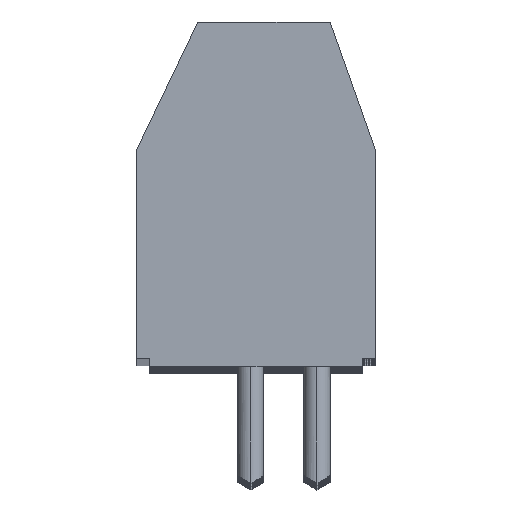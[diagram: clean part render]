
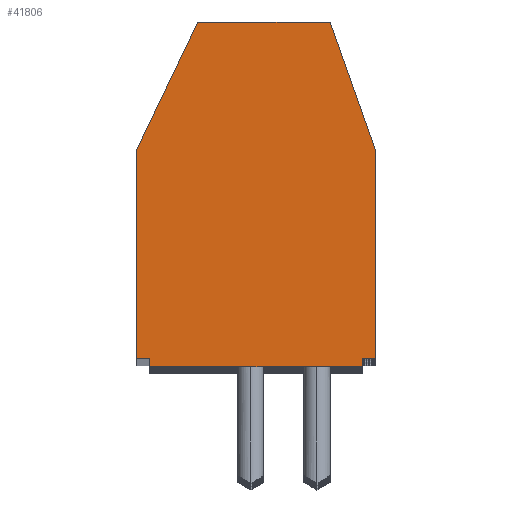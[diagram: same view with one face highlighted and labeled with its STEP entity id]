
A CAD part, top view. The second image highlights one B-rep face of the part: STEP entity #41806.
In plain terms, the highlighted planar face has unit normal (0, 0, 1).
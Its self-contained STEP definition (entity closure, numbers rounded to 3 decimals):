
#14928 = CARTESIAN_POINT ( 'NONE',  ( 4.2, 0., 0. ) ) ;
#14987 = CARTESIAN_POINT ( 'NONE',  ( 3.7, 0., 0. ) ) ;
#14988 = DIRECTION ( 'NONE',  ( 1., 0., 0. ) ) ;
#14989 = VECTOR ( 'NONE', #14988, 1000. ) ;
#14990 = CARTESIAN_POINT ( 'NONE',  ( 3.952, 0., 0. ) ) ;
#14991 = LINE ( 'NONE', #14990, #14989 ) ;
#20833 = CARTESIAN_POINT ( 'NONE',  ( 3.7, -0.3, 0. ) ) ;
#21282 = DIRECTION ( 'NONE',  ( 0., 1., 0. ) ) ;
#21283 = VECTOR ( 'NONE', #21282, 1000. ) ;
#21285 = CARTESIAN_POINT ( 'NONE',  ( 3.7, -0.15, 0. ) ) ;
#21287 = LINE ( 'NONE', #21285, #21283 ) ;
#21331 = CARTESIAN_POINT ( 'NONE',  ( -4.3, -0.3, 0. ) ) ;
#21409 = CARTESIAN_POINT ( 'NONE',  ( -4.3, 0., 0. ) ) ;
#21412 = DIRECTION ( 'NONE',  ( 0., -1., 0. ) ) ;
#21413 = VECTOR ( 'NONE', #21412, 1000. ) ;
#21414 = CARTESIAN_POINT ( 'NONE',  ( -4.3, -0.15, 0. ) ) ;
#21427 = LINE ( 'NONE', #21414, #21413 ) ;
#23100 = CARTESIAN_POINT ( 'NONE',  ( -4.8, 0., 0. ) ) ;
#23103 = DIRECTION ( 'NONE',  ( 1., 0., 0. ) ) ;
#23104 = VECTOR ( 'NONE', #23103, 1000. ) ;
#23107 = CARTESIAN_POINT ( 'NONE',  ( 4.2, 0., 0. ) ) ;
#23108 = LINE ( 'NONE', #23107, #23104 ) ;
#35525 = DIRECTION ( 'NONE',  ( 0., -1., 0. ) ) ;
#35526 = VECTOR ( 'NONE', #35525, 1000. ) ;
#35527 = CARTESIAN_POINT ( 'NONE',  ( 4.2, 7.9, 0. ) ) ;
#35528 = LINE ( 'NONE', #35527, #35526 ) ;
#35590 = CARTESIAN_POINT ( 'NONE',  ( 4.2, 7.9, 0. ) ) ;
#35950 = DIRECTION ( 'NONE',  ( -1., 0., 0. ) ) ;
#35951 = VECTOR ( 'NONE', #35950, 1000. ) ;
#35952 = CARTESIAN_POINT ( 'NONE',  ( -0.3, -0.3, 0. ) ) ;
#35953 = LINE ( 'NONE', #35952, #35951 ) ;
#35990 = CARTESIAN_POINT ( 'NONE',  ( -4.8, 7.9, 0. ) ) ;
#35991 = DIRECTION ( 'NONE',  ( 0., 1., 0. ) ) ;
#35992 = VECTOR ( 'NONE', #35991, 1000. ) ;
#35993 = CARTESIAN_POINT ( 'NONE',  ( -4.8, 6.2, 0. ) ) ;
#35994 = LINE ( 'NONE', #35993, #35992 ) ;
#41761 = EDGE_CURVE ( 'NONE', #41794, #62197, #80484, .T. ) ;
#41794 = VERTEX_POINT ( 'NONE', #80548 ) ;
#41806 = ADVANCED_FACE ( 'NONE', ( #80597 ), #80596, .F. ) ;
#41808 = EDGE_LOOP ( 'NONE', ( #41810, #41813, #41815, #41817, #41820, #41856, #41858, #41864, #41868, #41870 ) ) ;
#41810 = ORIENTED_EDGE ( 'NONE', *, *, #56692, .T. ) ;
#41813 = ORIENTED_EDGE ( 'NONE', *, *, #62732, .F. ) ;
#41815 = ORIENTED_EDGE ( 'NONE', *, *, #56660, .T. ) ;
#41817 = ORIENTED_EDGE ( 'NONE', *, *, #71589, .T. ) ;
#41820 = ORIENTED_EDGE ( 'NONE', *, *, #62195, .F. ) ;
#41856 = ORIENTED_EDGE ( 'NONE', *, *, #41761, .F. ) ;
#41858 = ORIENTED_EDGE ( 'NONE', *, *, #41859, .T. ) ;
#41859 = EDGE_CURVE ( 'NONE', #41794, #41861, #80657, .T. ) ;
#41861 = VERTEX_POINT ( 'NONE', #80648 ) ;
#41864 = ORIENTED_EDGE ( 'NONE', *, *, #41865, .T. ) ;
#41865 = EDGE_CURVE ( 'NONE', #41861, #62753, #80640, .T. ) ;
#41868 = ORIENTED_EDGE ( 'NONE', *, *, #62749, .F. ) ;
#41870 = ORIENTED_EDGE ( 'NONE', *, *, #57285, .T. ) ;
#56501 = VERTEX_POINT ( 'NONE', #20833 ) ;
#56660 = EDGE_CURVE ( 'NONE', #56501, #71590, #21287, .T. ) ;
#56682 = VERTEX_POINT ( 'NONE', #21331 ) ;
#56692 = EDGE_CURVE ( 'NONE', #56694, #56682, #21427, .T. ) ;
#56694 = VERTEX_POINT ( 'NONE', #21409 ) ;
#57285 = EDGE_CURVE ( 'NONE', #57289, #56694, #23108, .T. ) ;
#57289 = VERTEX_POINT ( 'NONE', #23100 ) ;
#62195 = EDGE_CURVE ( 'NONE', #62197, #71587, #35528, .T. ) ;
#62197 = VERTEX_POINT ( 'NONE', #35590 ) ;
#62732 = EDGE_CURVE ( 'NONE', #56501, #56682, #35953, .T. ) ;
#62749 = EDGE_CURVE ( 'NONE', #57289, #62753, #35994, .T. ) ;
#62753 = VERTEX_POINT ( 'NONE', #35990 ) ;
#71587 = VERTEX_POINT ( 'NONE', #14928 ) ;
#71589 = EDGE_CURVE ( 'NONE', #71590, #71587, #14991, .T. ) ;
#71590 = VERTEX_POINT ( 'NONE', #14987 ) ;
#80477 = DIRECTION ( 'NONE',  ( 0.334, -0.943, 0. ) ) ;
#80478 = VECTOR ( 'NONE', #80477, 1000. ) ;
#80479 = CARTESIAN_POINT ( 'NONE',  ( 2.5, 12.7, 0. ) ) ;
#80484 = LINE ( 'NONE', #80479, #80478 ) ;
#80548 = CARTESIAN_POINT ( 'NONE',  ( 2.5, 12.7, 0. ) ) ;
#80592 = DIRECTION ( 'NONE',  ( -1., 0., 0. ) ) ;
#80593 = DIRECTION ( 'NONE',  ( 0., 0., -1. ) ) ;
#80594 = CARTESIAN_POINT ( 'NONE',  ( 4.2, -0.3, 0. ) ) ;
#80595 = AXIS2_PLACEMENT_3D ( 'NONE', #80594, #80593, #80592 ) ;
#80596 = PLANE ( 'NONE',  #80595 ) ;
#80597 = FACE_OUTER_BOUND ( 'NONE', #41808, .T. ) ;
#80637 = DIRECTION ( 'NONE',  ( -0.432, -0.902, 0. ) ) ;
#80638 = VECTOR ( 'NONE', #80637, 1000. ) ;
#80639 = CARTESIAN_POINT ( 'NONE',  ( -3.65, 10.3, 0. ) ) ;
#80640 = LINE ( 'NONE', #80639, #80638 ) ;
#80648 = CARTESIAN_POINT ( 'NONE',  ( -2.5, 12.7, 0. ) ) ;
#80649 = DIRECTION ( 'NONE',  ( -1., 0., 0. ) ) ;
#80650 = VECTOR ( 'NONE', #80649, 1000. ) ;
#80651 = CARTESIAN_POINT ( 'NONE',  ( 4.2, 12.7, 0. ) ) ;
#80657 = LINE ( 'NONE', #80651, #80650 ) ;
